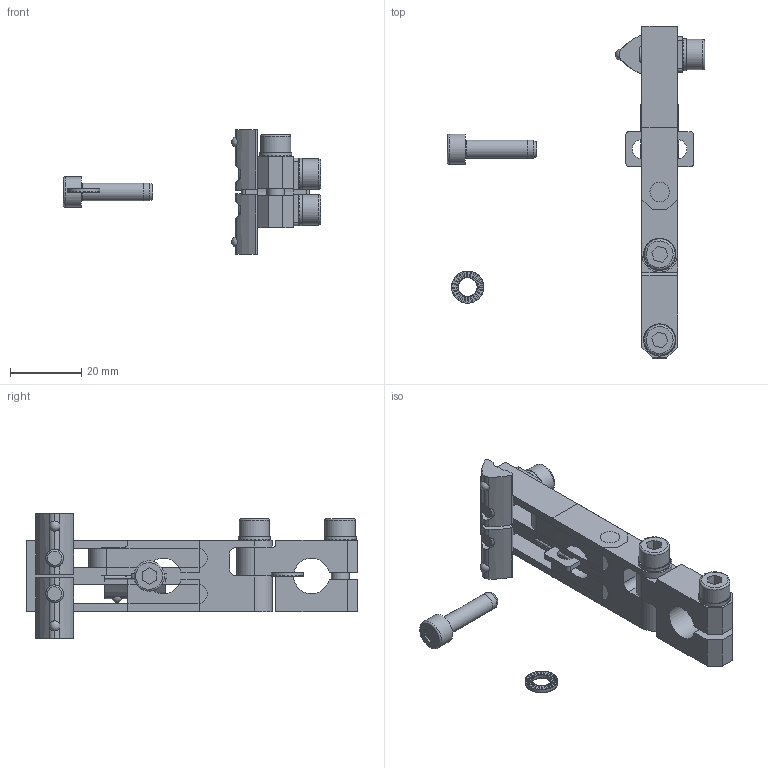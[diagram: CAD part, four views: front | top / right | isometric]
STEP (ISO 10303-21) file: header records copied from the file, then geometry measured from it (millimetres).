
FILE_DESCRIPTION( ( 'STEP AP214' ), '1' );
FILE_NAME( 'C:/Users/Segreteria/Desktop/CA.WSL.GA.10.6.stp', '2015-03-25T07:23:22', ( ' ' ), ( ' ' ), 'XStep 1.0', ' ', ' ' );
FILE_SCHEMA( ( 'CONFIG_CONTROL_DESIGN) ( )' ) );
Length unit declared in the file: metre
Products named in the file (9): Assem1; Assem2; R.5.SCH; WSL.GA.10.1; WSL.GA.10.2; V-tcei M  5 x 20; R.05.10; V-tcei M  5 x 18; CA.02.05.005
Bounding box: 72.1 x 93 x 35 mm (x, y, z)
Volume: 41610.9 mm3; surface area: 32484.2 mm2
Topology: 19 solids, 26 shells, 1715 faces, 4986 edges, 3312 vertices
Faces by surface type: plane 1544, cylinder 144, torus 16, cone 8, sphere 3
Full cylindrical faces by diameter (mm): 4.134 x3, 4.2 x3, 5 x11, 5.2 x6, 5.3 x11, 5.5 x3, 8.5 x8, 9 x7
Entity records: 10216 total; most frequent: CARTESIAN_POINT 1875, DIRECTION 1751, ORIENTED_EDGE 1694, EDGE_CURVE 847, AXIS2_PLACEMENT_3D 598, VERTEX_POINT 574, LINE 555, VECTOR 555
